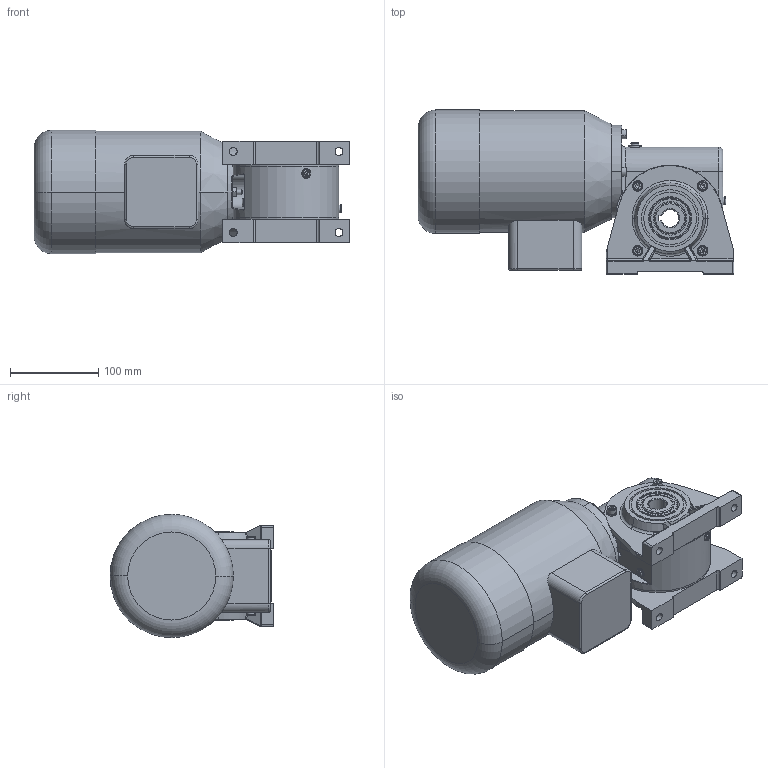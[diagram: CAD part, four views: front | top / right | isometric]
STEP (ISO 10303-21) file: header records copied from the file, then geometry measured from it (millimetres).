
FILE_DESCRIPTION (( 'STEP AP214' ), '1' );
FILE_NAME ('SN8SHH_370W_1400Upm_Drehstrom-Motor_B.STEP', '2021-09-21T09:02:16', ( '' ), ( '' ), 'SwSTEP 2.0', 'SolidWorks 2019', '' );
FILE_SCHEMA (( 'AUTOMOTIVE_DESIGN' ));
Length unit declared in the file: millimetre
Products named in the file (13): Kupferscheibe Ø6x12x1,5 DIN7603 A; NBR_WDR_35x47x7; SN8SHH_3D_Export; socket set screw flat point_din_DIN 913 - M6 x 25-C; slotted pan head screw_din_DIN EN ISO 1580 - M5 x 6 - 6C; hex nut style 1 gradeab_din_Hexagon Nut ISO 4032 - M6 - D - C; 08FH-W-001_3D_Export; socket head cap screw_din_DIN 912 M6 x 20 --- 20C; 08B-G-003_3D_Export; U-Seal Ring Ø5; 08SHH-D-001_3D_Export; 08-M-164 I 370W_1400Upm; SN8SHH_370W_1400Upm_Drehstrom-Motor_B
Assembly tree (37 placements, depth 3):
  SN8SHH_370W_1400Upm_Drehstrom-Motor_B
    SN8SHH_3D_Export
      08B-G-003_3D_Export
      08FH-W-001_3D_Export
      08SHH-D-001_3D_Export  x2
      NBR_WDR_35x47x7  x2
      socket head cap screw_din_DIN 912 M6 x 20 --- 20C  x11
      slotted pan head screw_din_DIN EN ISO 1580 - M5 x 6 - 6C  x4
      socket set screw flat point_din_DIN 913 - M6 x 25-C
      hex nut style 1 gradeab_din_Hexagon Nut ISO 4032 - M6 - D - C
      Kupferscheibe Ø6x12x1,5 DIN7603 A  x8
      U-Seal Ring Ø5  x4
    08-M-164 I 370W_1400Upm
Bounding box: 358.5 x 186 x 140 mm (x, y, z)
Volume: 4787748.1 mm3; surface area: 343660.5 mm2
Topology: 36 solids, 36 shells, 970 faces, 2190 edges, 1320 vertices
Faces by surface type: cylinder 346, plane 342, cone 127, torus 104, bspline 51
Entity records: 16289 total; most frequent: CARTESIAN_POINT 5122, DIRECTION 2295, ORIENTED_EDGE 2086, EDGE_CURVE 1043, AXIS2_PLACEMENT_3D 950, VERTEX_POINT 645, EDGE_LOOP 530, CIRCLE 484
